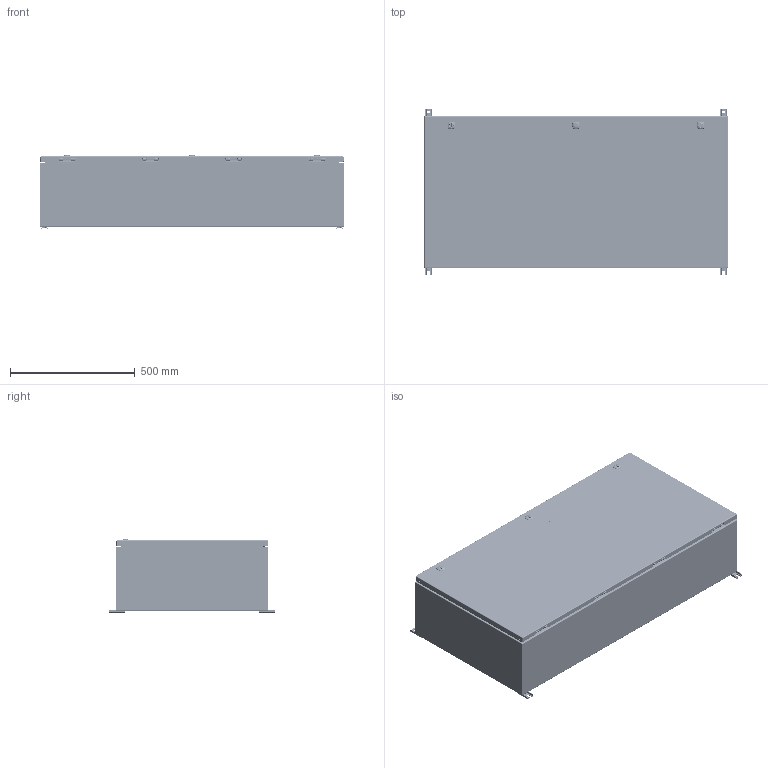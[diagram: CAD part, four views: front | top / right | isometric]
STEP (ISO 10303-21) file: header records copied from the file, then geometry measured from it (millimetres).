
FILE_DESCRIPTION(/* description */ ('1412BTCU 600A - 3 Wires x 48" Assembly'),/* implementation_level */ '2;1');
FILE_NAME(/* name */ 'C:\Vault_Workspace\Inventor_Dwg\BoxCad\Result\1412BTCU04603\e-mail\3D\1412BTCU04603.stp',/* time_stamp */ '2022-09-08T09:24:21-04:00',/* author */ ('BoxCad'),/* organization */ (''),/* preprocessor_version */ 'ST-DEVELOPER v18.1',/* originating_system */ 'Autodesk Inventor 2020',/* authorisation */ '');
FILE_SCHEMA (('AUTOMOTIVE_DESIGN { 1 0 10303 214 3 1 1 }'));
Products named in the file (51): 1412BTCU04603; 1412BTCU04603B; 1412BTCU04603B-P; STK-Q-16005; 1412BTCU04603C; 1412BTCU04603C-P; 1412BTCU04603G; STK-Q-16080; STK-K-09800; STK-Q-33014; STK-Q-90398; STK-Q-40095; STK-Q-63410; STK-S-00100; STK-P-02400S; STK-A-880SCQ4-SL-1; STK-A-880SCQ4-SL-2; STK-A-880SCQ4-SL-3; STK-Q-78110; STK-Q-78120; STK-Q-78145; STK-Q-03200; STK-Q-78125; STK-Q-78141; STK-Q-90390; STK-Q-78160; 1412BTCU04603IP1; 1412BTCU04603IP1-P; STK-P-02401S; STK-Q-07610; STK-A-67400; STK-Q-67400; STK-G-22300; STK-Q-67420; STK-Q-40800; STK-Q-67430; STK-Q-07310; 1412BTCU04603BAR1-P; 1412BTCU04603BAR2-P; 1412BTCU04603BAR3-P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
Assembly tree (109 placements, depth 4):
  1412BTCU04603
    1412BTCU04603B
      1412BTCU04603B-P
      STK-Q-16080
      STK-Q-16005  x6
      STK-S-00100
      STK-P-02400S
    1412BTCU04603C
      1412BTCU04603C-P
      1412BTCU04603G
      STK-Q-16080
      STK-K-09800  x4
        STK-Q-33014
        STK-Q-90398
        STK-Q-40095
        STK-Q-63410
      STK-S-00100
      STK-P-02400S
      STK-A-880SCQ4-SL-1
        STK-Q-78110
        STK-Q-78120
        STK-Q-78145
        STK-Q-03200
        STK-Q-78125
        STK-Q-78141
        STK-Q-90390
        STK-Q-78160
      STK-A-880SCQ4-SL-2
        STK-Q-78110
        STK-Q-78120
        STK-Q-78145
        STK-Q-03200
        STK-Q-78125
        STK-Q-78141
        STK-Q-90390
        STK-Q-78160
      STK-A-880SCQ4-SL-3
        STK-Q-78110
        STK-Q-78120
        STK-Q-78145
        STK-Q-03200
        STK-Q-78125
        STK-Q-78141
        STK-Q-90390
        STK-Q-78160
    1412BTCU04603IP1
      1412BTCU04603IP1-P
      STK-P-02401S
    STK-Q-07610  x4
    STK-Q-07310  x10
    STK-A-67400  x6
      STK-Q-67400
      STK-G-22300
      STK-Q-67420
      STK-Q-40800
      STK-Q-67430
    1412BTCU04603BAR1-P
    1412BTCU04603BAR2-P
    1412BTCU04603BAR3-P
    1412BTCU04603MF
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Bounding box: 1219.2 x 666.75 x 294.2 mm (x, y, z)
Volume: 7059050.9 mm3; surface area: 6901653.4 mm2
Topology: 145 solids, 145 shells, 20635 faces, 53915 edges, 33565 vertices
Faces by surface type: plane 7222, bspline 5669, cylinder 5358, torus 1623, sphere 456, cone 307
Full cylindrical faces by diameter (mm): 0.75 x8, 0.762 x8, 1 x16, 1.1 x16, 3.2 x8, 4.5 x24, 4.521 x16, 4.85 x32, 4.95 x8, 5.1 x37, 5.6 x4, 5.9 x78, 6.65 x12, 6.85 x40, 7.3 x4, 7.366 x4, 7.8 x246, 7.9 x6, 8 x20, 8.25 x12, 8.382 x4, 8.6 x12, 9.6 x3, 9.7 x48, 9.906 x4, 10 x3, 10.312 x2, 11.5 x12, 12 x10, 12.8 x3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
Entity records: 195037 total; most frequent: CARTESIAN_POINT 78603, ORIENTED_EDGE 25818, DIRECTION 20737, EDGE_CURVE 12909, VERTEX_POINT 8164, AXIS2_PLACEMENT_3D 7283, LINE 6171, VECTOR 6171
